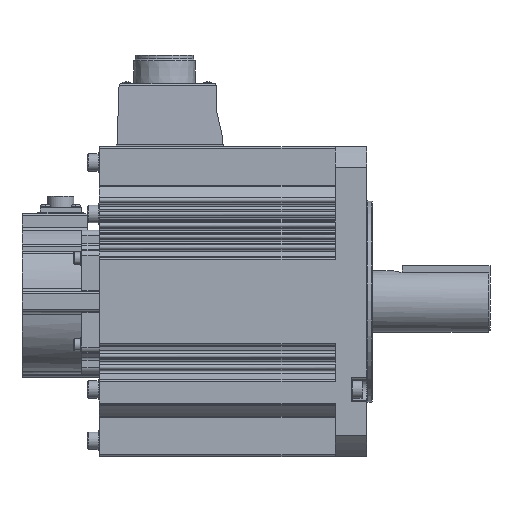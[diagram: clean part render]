
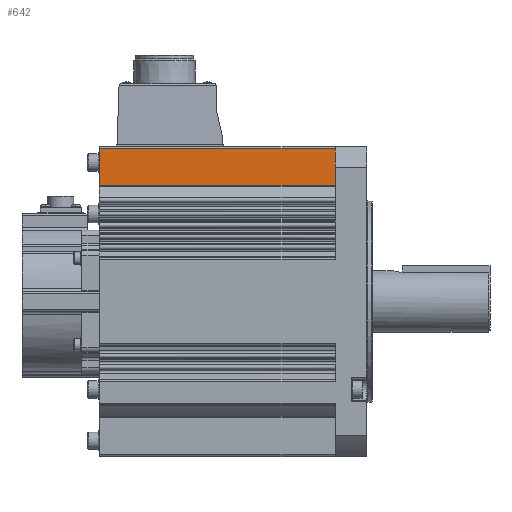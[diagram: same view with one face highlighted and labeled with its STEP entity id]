
A CAD part, top view. The second image highlights one B-rep face of the part: STEP entity #642.
In plain terms, the highlighted planar face has unit normal (0, 0, 1).
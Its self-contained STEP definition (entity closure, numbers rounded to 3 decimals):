
#642 = ADVANCED_FACE( '', ( #1953 ), #1954, .T. );
#1953 = FACE_OUTER_BOUND( '', #3383, .T. );
#1954 = PLANE( '', #3384 );
#3383 = EDGE_LOOP( '', ( #8175, #8176, #8177, #8178 ) );
#3384 = AXIS2_PLACEMENT_3D( '', #8179, #8180, #8181 );
#8175 = ORIENTED_EDGE( '', *, *, #10548, .T. );
#8176 = ORIENTED_EDGE( '', *, *, #10834, .F. );
#8177 = ORIENTED_EDGE( '', *, *, #10835, .T. );
#8178 = ORIENTED_EDGE( '', *, *, #10832, .T. );
#8179 = CARTESIAN_POINT( '', ( -152., 65.915, 58.8 ) );
#8180 = DIRECTION( '', ( 0., 0., 1. ) );
#8181 = DIRECTION( '', ( 0., -1., 0. ) );
#10548 = EDGE_CURVE( '', #13208, #13205, #13209, .T. );
#10832 = EDGE_CURVE( '', #13701, #13208, #13702, .T. );
#10834 = EDGE_CURVE( '', #13704, #13205, #13705, .T. );
#10835 = EDGE_CURVE( '', #13704, #13701, #13706, .T. );
#13205 = VERTEX_POINT( '', #17283 );
#13208 = VERTEX_POINT( '', #17286 );
#13209 = LINE( '', #17287, #17288 );
#13701 = VERTEX_POINT( '', #17923 );
#13702 = LINE( '', #17924, #17925 );
#13704 = VERTEX_POINT( '', #17927 );
#13705 = LINE( '', #17928, #17929 );
#13706 = LINE( '', #17930, #17931 );
#17283 = CARTESIAN_POINT( '', ( -18., 87.003, 58.8 ) );
#17286 = CARTESIAN_POINT( '', ( -18., 65.915, 58.8 ) );
#17287 = CARTESIAN_POINT( '', ( -18., 87.003, 58.8 ) );
#17288 = VECTOR( '', #20751, 1. );
#17923 = CARTESIAN_POINT( '', ( -152., 65.915, 58.8 ) );
#17924 = CARTESIAN_POINT( '', ( -152., 65.915, 58.8 ) );
#17925 = VECTOR( '', #21315, 1. );
#17927 = CARTESIAN_POINT( '', ( -152., 87.003, 58.8 ) );
#17928 = CARTESIAN_POINT( '', ( -152., 87.003, 58.8 ) );
#17929 = VECTOR( '', #21319, 1. );
#17930 = CARTESIAN_POINT( '', ( -152., 87.003, 58.8 ) );
#17931 = VECTOR( '', #21320, 1. );
#20751 = DIRECTION( '', ( 0., 1., 0. ) );
#21315 = DIRECTION( '', ( 1., 0., 0. ) );
#21319 = DIRECTION( '', ( 1., 0., 0. ) );
#21320 = DIRECTION( '', ( 0., -1., 0. ) );
